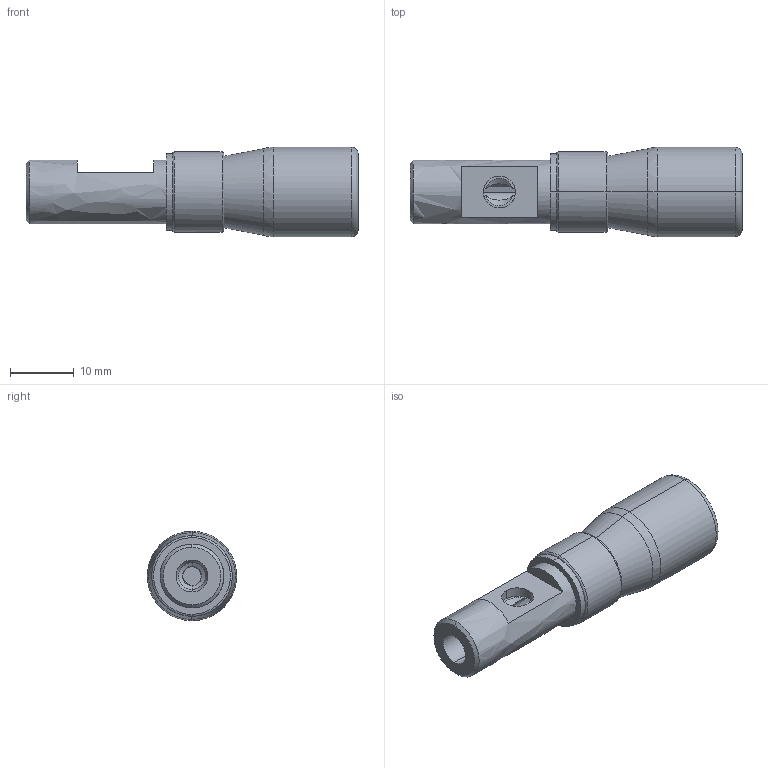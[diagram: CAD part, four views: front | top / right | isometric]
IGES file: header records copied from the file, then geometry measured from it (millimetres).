
Start section: ------------------------------------------------------------------------
Global section: file name: D:\ICADMX\tmp\trans3d_spg\TGMX25.1844.RBP010RCA_23224.igs; native system: spGate; preprocessor: ver11.3.7; author: Unknown; organization: Unknown; date: 150330.151234; units: millimetre
Bounding box: 52 x 13.98 x 14 mm (x, y, z)
Volume: 5257.1 mm3; surface area: 2635.8 mm2
Topology: 1 solids, 1 shells, 49 faces, 107 edges, 65 vertices
Faces by surface type: bspline 49
